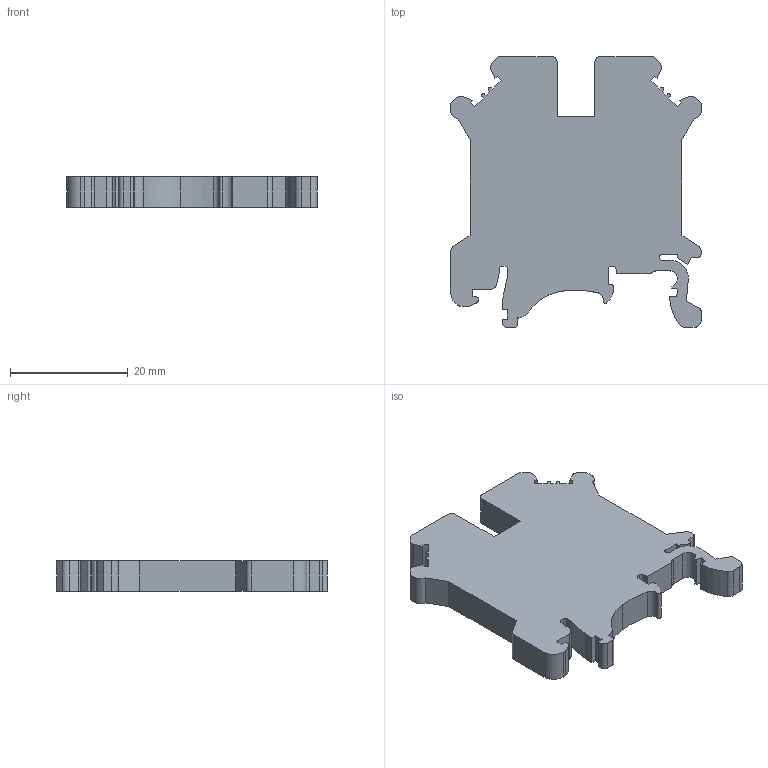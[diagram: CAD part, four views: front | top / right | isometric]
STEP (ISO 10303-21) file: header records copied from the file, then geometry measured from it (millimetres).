
FILE_DESCRIPTION(/* description */ (''),/* implementation_level */ '2;1');
FILE_NAME(/* name */ 'UT1-2.5.stp',/* time_stamp */ '2022-12-21T08:37:36+08:00',/* author */ (''),/* organization */ (''),/* preprocessor_version */ 'ST-DEVELOPER v16.7',/* originating_system */ 'SIEMENS PLM Software NX 12.0',/* authorisation */ '');
FILE_SCHEMA (('AUTOMOTIVE_DESIGN { 1 0 10303 214 3 1 1 1 }'));
Length unit declared in the file: millimetre
Products named in the file (1): _model1
Bounding box: 42.5 x 46 x 5.2 mm (x, y, z)
Volume: 7261.1 mm3; surface area: 4153.2 mm2
Topology: 1 solids, 1 shells, 128 faces, 378 edges, 252 vertices
Faces by surface type: plane 88, cylinder 40
Entity records: 4286 total; most frequent: CARTESIAN_POINT 759, ORIENTED_EDGE 756, DIRECTION 716, EDGE_CURVE 378, LINE 298, VECTOR 298, VERTEX_POINT 252, AXIS2_PLACEMENT_3D 209
